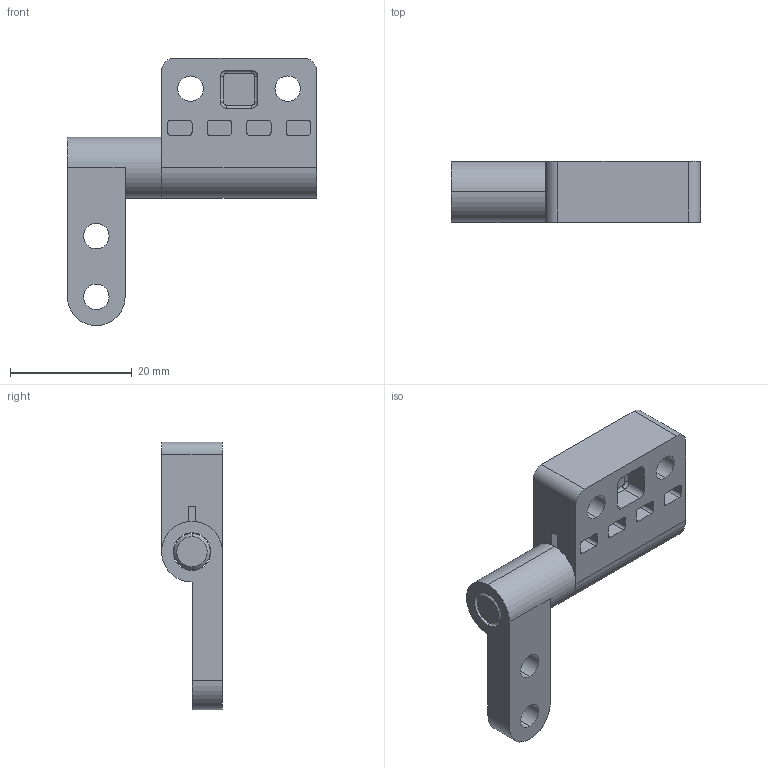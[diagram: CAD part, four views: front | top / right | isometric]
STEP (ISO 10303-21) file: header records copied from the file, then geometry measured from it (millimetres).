
FILE_DESCRIPTION (( 'STEP AP203' ), '1' );
FILE_NAME ('XG11-063R.STEP', '2023-12-05T01:17:21', ( '' ), ( '' ), 'SwSTEP 2.0', 'SolidWorks 2020', '' );
FILE_SCHEMA (( 'CONFIG_CONTROL_DESIGN' ));
Length unit declared in the file: millimetre
Products named in the file (1): XG11-063R
Bounding box: 41 x 10 x 44 mm (x, y, z)
Volume: 6295.9 mm3; surface area: 6004.3 mm2
Topology: 3 solids, 3 shells, 169 faces, 426 edges, 277 vertices
Faces by surface type: cylinder 80, plane 77, torus 8, cone 4
Entity records: 5204 total; most frequent: DIRECTION 941, CARTESIAN_POINT 873, ORIENTED_EDGE 852, EDGE_CURVE 426, AXIS2_PLACEMENT_3D 345, VERTEX_POINT 277, VECTOR 251, LINE 251
